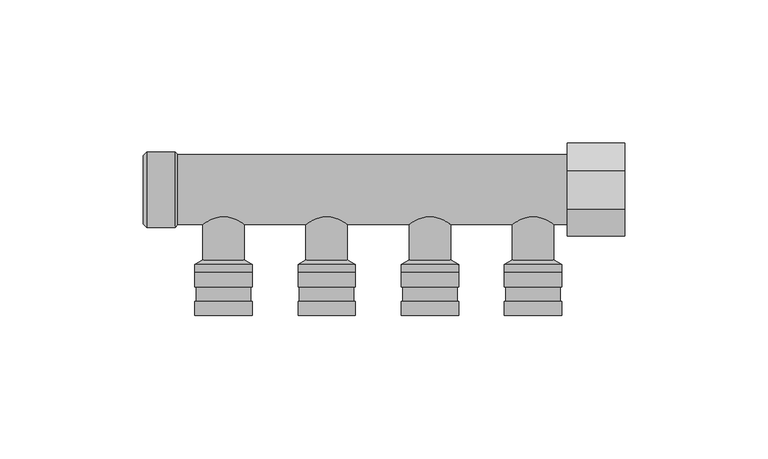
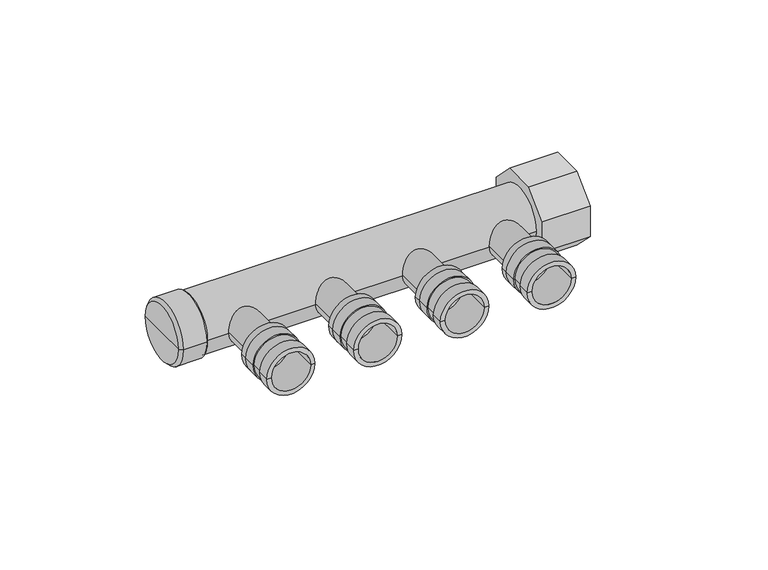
"""IFC4 building model written with IfcOpenShell, lengths in millimetres: pipe fitting geometry, Astra - Distribuidor Fechado - DST : Astra - Distribuidor Fechado - DST."""

from ifc_helpers import new_model, si_unit, frame, origin, place, context, project, spatial, polyline, circle_curve, source, transform, mapped, element, save
from ifc_brep_helpers import plane_surface, cylinder_surface, revolved_surface, advanced_brep


def pipe_fitting_f7807440(model_context):
    return source(origin(), model_context, "Body", "AdvancedBrep", [
        advanced_brep(
        [(43.85, -29.0, 0.0), (60.15, -29.0, 0.0), (62.0, -29.0, 0.0), (42.0, -29.0, 0.0), (43.85, -44.0, 0.0), (60.15, -44.0, 0.0), (42.0, -44.0, 0.0), (62.0, -44.0, 0.0), (62.0, -34.0, 0.0), (42.0, -34.0, 0.0), (42.0, -39.0, 0.0), (62.0, -39.0, 0.0), (61.5, -34.0, 0.0), (42.5, -34.0, 0.0), (61.5, -39.0, 0.0), (42.5, -39.0, 0.0)],
        [
            (0, 1, circle_curve(frame((52.0, -29.0, 0.0), z_axis=(0.0, -1.0, 0.0), x_axis=(1.0000000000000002, 0.0, 0.0)), 8.15)),
            (1, 2),
            (2, 3, circle_curve(frame((52.0, -29.0, 0.0), z_axis=(0.0, 1.0, 0.0), x_axis=(1.0000000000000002, 0.0, 0.0)), 10.0)),
            (3, 0),
            (1, 0, circle_curve(frame((52.0, -29.0, 0.0), z_axis=(0.0, -1.0, 0.0), x_axis=(1.0000000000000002, 0.0, 0.0)), 8.15)),
            (3, 2, circle_curve(frame((52.0, -29.0, 0.0), z_axis=(0.0, 1.0, 0.0), x_axis=(1.0000000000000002, 0.0, 0.0)), 10.0)),
            (0, 4),
            (4, 5, circle_curve(frame((52.0, -44.0, 0.0), z_axis=(0.0, -1.0, 0.0), x_axis=(1.0000000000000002, 0.0, 0.0)), 8.15)),
            (5, 1),
            (5, 4, circle_curve(frame((52.0, -44.0, 0.0), z_axis=(0.0, -1.0, 0.0), x_axis=(1.0000000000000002, 0.0, 0.0)), 8.15)),
            (4, 6),
            (6, 7, circle_curve(frame((52.0, -44.0, 0.0), z_axis=(0.0, -1.0, 0.0), x_axis=(1.0000000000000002, 0.0, 0.0)), 10.0)),
            (7, 5),
            (7, 6, circle_curve(frame((52.0, -44.0, 0.0), z_axis=(0.0, -1.0, 0.0), x_axis=(1.0000000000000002, 0.0, 0.0)), 10.0)),
            (2, 8),
            (8, 9, circle_curve(frame((52.0, -34.0, 0.0), z_axis=(0.0, 1.0, 0.0), x_axis=(1.0000000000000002, 0.0, 0.0)), 10.0)),
            (9, 3),
            (6, 10),
            (10, 11, circle_curve(frame((52.0, -39.0, 0.0), z_axis=(0.0, -1.0, 0.0), x_axis=(1.0000000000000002, 0.0, 0.0)), 10.0)),
            (11, 7),
            (9, 8, circle_curve(frame((52.0, -34.0, 0.0), z_axis=(0.0, 1.0, 0.0), x_axis=(1.0000000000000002, 0.0, 0.0)), 10.0)),
            (11, 10, circle_curve(frame((52.0, -39.0, 0.0), z_axis=(0.0, -1.0, 0.0), x_axis=(1.0000000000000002, 0.0, 0.0)), 10.0)),
            (12, 13, circle_curve(frame((52.0, -34.0, 0.0), z_axis=(0.0, 1.0, 0.0), x_axis=(1.0000000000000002, 0.0, 0.0)), 9.5)),
            (13, 9),
            (8, 12),
            (13, 12, circle_curve(frame((52.0, -34.0, 0.0), z_axis=(0.0, 1.0, 0.0), x_axis=(1.0000000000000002, 0.0, 0.0)), 9.5)),
            (12, 14),
            (14, 15, circle_curve(frame((52.0, -39.0, 0.0), z_axis=(0.0, 1.0, 0.0), x_axis=(1.0000000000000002, 0.0, 0.0)), 9.5)),
            (15, 13),
            (15, 14, circle_curve(frame((52.0, -39.0, 0.0), z_axis=(0.0, 1.0, 0.0), x_axis=(1.0000000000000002, 0.0, 0.0)), 9.5)),
            (14, 11),
            (10, 15),
        ],
        [
            plane_surface(frame((52.0, -29.0, 0.0), z_axis=(0.0, 1.0, 0.0), x_axis=(1.0, 0.0, 0.0))),
            revolved_surface(polyline([(60.150000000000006, -29.0, 0.0), (60.150000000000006, -44.00000000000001, 0.0)]), (52.0, -29.0, 0.0), (0.0, 1.0000000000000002, 0.0)),
            plane_surface(frame((52.0, -44.0, 0.0), z_axis=(0.0, -1.0, 0.0), x_axis=(1.0, 0.0, 0.0))),
            cylinder_surface(frame((52.0, -29.0, 0.0), z_axis=(0.0, 1.0000000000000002, 0.0), x_axis=(1.0000000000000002, 0.0, 0.0)), 10.0),
            plane_surface(frame((52.0, -34.0, 0.0), z_axis=(0.0, -1.0, 0.0), x_axis=(1.0, 0.0, 0.0))),
            cylinder_surface(frame((52.0, -29.0, 0.0), z_axis=(0.0, 1.0000000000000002, 0.0), x_axis=(1.0000000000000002, 0.0, 0.0)), 9.5),
            plane_surface(frame((52.0, -39.0, 0.0), z_axis=(0.0, 1.0, 0.0), x_axis=(1.0, 0.0, 0.0))),
        ],
        [
            (0, [[1, 2, 3, 4]]),
            (0, [[-2, 5, -4, 6]]),
            (1, [[-1, 7, 8, 9]]),
            (1, [[-5, -9, 10, -7]]),
            (2, [[-8, 11, 12, 13]]),
            (2, [[-10, -13, 14, -11]]),
            (3, [[-3, 15, 16, 17]]),
            (3, [[-12, 18, 19, 20]]),
            (3, [[-6, -17, 21, -15]]),
            (3, [[-14, -20, 22, -18]]),
            (4, [[23, 24, -16, 25]]),
            (4, [[26, -25, -21, -24]]),
            (5, [[-23, 27, 28, 29]]),
            (5, [[-26, -29, 30, -27]]),
            (6, [[-28, 31, -19, 32]]),
            (6, [[-30, -32, -22, -31]]),
        ],
    ),
        advanced_brep(
        [(7.85, -29.0, 0.0), (24.15, -29.0, 0.0), (26.0, -29.0, 0.0), (6.0, -29.0, 0.0), (7.85, -44.0, 0.0), (24.15, -44.0, 0.0), (6.0, -44.0, 0.0), (26.0, -44.0, 0.0), (26.0, -34.0, 0.0), (6.0, -34.0, 0.0), (6.0, -39.0, 0.0), (26.0, -39.0, 0.0), (25.5, -34.0, 0.0), (6.5, -34.0, 0.0), (25.5, -39.0, 0.0), (6.5, -39.0, 0.0)],
        [
            (0, 1, circle_curve(frame((16.0, -29.0, 0.0), z_axis=(0.0, -1.0, 0.0), x_axis=(1.0000000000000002, 0.0, 0.0)), 8.15)),
            (1, 2),
            (2, 3, circle_curve(frame((16.0, -29.0, 0.0), z_axis=(0.0, 1.0, 0.0), x_axis=(1.0000000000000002, 0.0, 0.0)), 10.0)),
            (3, 0),
            (1, 0, circle_curve(frame((16.0, -29.0, 0.0), z_axis=(0.0, -1.0, 0.0), x_axis=(1.0000000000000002, 0.0, 0.0)), 8.15)),
            (3, 2, circle_curve(frame((16.0, -29.0, 0.0), z_axis=(0.0, 1.0, 0.0), x_axis=(1.0000000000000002, 0.0, 0.0)), 10.0)),
            (0, 4),
            (4, 5, circle_curve(frame((16.0, -44.0, 0.0), z_axis=(0.0, -1.0, 0.0), x_axis=(1.0000000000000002, 0.0, 0.0)), 8.15)),
            (5, 1),
            (5, 4, circle_curve(frame((16.0, -44.0, 0.0), z_axis=(0.0, -1.0, 0.0), x_axis=(1.0000000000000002, 0.0, 0.0)), 8.15)),
            (4, 6),
            (6, 7, circle_curve(frame((16.0, -44.0, 0.0), z_axis=(0.0, -1.0, 0.0), x_axis=(1.0000000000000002, 0.0, 0.0)), 10.0)),
            (7, 5),
            (7, 6, circle_curve(frame((16.0, -44.0, 0.0), z_axis=(0.0, -1.0, 0.0), x_axis=(1.0000000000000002, 0.0, 0.0)), 10.0)),
            (2, 8),
            (8, 9, circle_curve(frame((16.0, -34.0, 0.0), z_axis=(0.0, 1.0, 0.0), x_axis=(1.0000000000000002, 0.0, 0.0)), 10.0)),
            (9, 3),
            (6, 10),
            (10, 11, circle_curve(frame((16.0, -39.0, 0.0), z_axis=(0.0, -1.0, 0.0), x_axis=(1.0000000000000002, 0.0, 0.0)), 10.0)),
            (11, 7),
            (9, 8, circle_curve(frame((16.0, -34.0, 0.0), z_axis=(0.0, 1.0, 0.0), x_axis=(1.0000000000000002, 0.0, 0.0)), 10.0)),
            (11, 10, circle_curve(frame((16.0, -39.0, 0.0), z_axis=(0.0, -1.0, 0.0), x_axis=(1.0000000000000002, 0.0, 0.0)), 10.0)),
            (12, 13, circle_curve(frame((16.0, -34.0, 0.0), z_axis=(0.0, 1.0, 0.0), x_axis=(1.0000000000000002, 0.0, 0.0)), 9.5)),
            (13, 9),
            (8, 12),
            (13, 12, circle_curve(frame((16.0, -34.0, 0.0), z_axis=(0.0, 1.0, 0.0), x_axis=(1.0000000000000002, 0.0, 0.0)), 9.5)),
            (12, 14),
            (14, 15, circle_curve(frame((16.0, -39.0, 0.0), z_axis=(0.0, 1.0, 0.0), x_axis=(1.0000000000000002, 0.0, 0.0)), 9.5)),
            (15, 13),
            (15, 14, circle_curve(frame((16.0, -39.0, 0.0), z_axis=(0.0, 1.0, 0.0), x_axis=(1.0000000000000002, 0.0, 0.0)), 9.5)),
            (14, 11),
            (10, 15),
        ],
        [
            plane_surface(frame((16.0, -29.0, 0.0), z_axis=(0.0, 1.0, 0.0), x_axis=(1.0, 0.0, 0.0))),
            revolved_surface(polyline([(24.150000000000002, -29.0, 0.0), (24.150000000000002, -44.00000000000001, 0.0)]), (16.0, -29.0, 0.0), (0.0, 1.0000000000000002, 0.0)),
            plane_surface(frame((16.0, -44.0, 0.0), z_axis=(0.0, -1.0, 0.0), x_axis=(1.0, 0.0, 0.0))),
            cylinder_surface(frame((16.0, -29.0, 0.0), z_axis=(0.0, 1.0000000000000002, 0.0), x_axis=(1.0000000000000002, 0.0, 0.0)), 10.0),
            plane_surface(frame((16.0, -34.0, 0.0), z_axis=(0.0, -1.0, 0.0), x_axis=(1.0, 0.0, 0.0))),
            cylinder_surface(frame((16.0, -29.0, 0.0), z_axis=(0.0, 1.0000000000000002, 0.0), x_axis=(1.0000000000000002, 0.0, 0.0)), 9.5),
            plane_surface(frame((16.0, -39.0, 0.0), z_axis=(0.0, 1.0, 0.0), x_axis=(1.0, 0.0, 0.0))),
        ],
        [
            (0, [[1, 2, 3, 4]]),
            (0, [[-2, 5, -4, 6]]),
            (1, [[-1, 7, 8, 9]]),
            (1, [[-5, -9, 10, -7]]),
            (2, [[-8, 11, 12, 13]]),
            (2, [[-10, -13, 14, -11]]),
            (3, [[-3, 15, 16, 17]]),
            (3, [[-12, 18, 19, 20]]),
            (3, [[-6, -17, 21, -15]]),
            (3, [[-14, -20, 22, -18]]),
            (4, [[23, 24, -16, 25]]),
            (4, [[26, -25, -21, -24]]),
            (5, [[-23, 27, 28, 29]]),
            (5, [[-26, -29, 30, -27]]),
            (6, [[-28, 31, -19, 32]]),
            (6, [[-30, -32, -22, -31]]),
        ],
    ),
        advanced_brep(
        [(-28.15, -29.0, 0.0), (-11.85, -29.0, 0.0), (-10.0, -29.0, 0.0), (-30.0, -29.0, 0.0), (-28.15, -44.0, 0.0), (-11.85, -44.0, 0.0), (-30.0, -44.0, 0.0), (-10.0, -44.0, 0.0), (-10.0, -34.0, 0.0), (-30.0, -34.0, 0.0), (-30.0, -39.0, 0.0), (-10.0, -39.0, 0.0), (-10.5, -34.0, 0.0), (-29.5, -34.0, 0.0), (-10.5, -39.0, 0.0), (-29.5, -39.0, 0.0)],
        [
            (0, 1, circle_curve(frame((-20.0, -29.0, 0.0), z_axis=(0.0, -1.0, 0.0), x_axis=(1.0000000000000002, 0.0, 0.0)), 8.15)),
            (1, 2),
            (2, 3, circle_curve(frame((-20.0, -29.0, 0.0), z_axis=(0.0, 1.0, 0.0), x_axis=(1.0000000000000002, 0.0, 0.0)), 10.0)),
            (3, 0),
            (1, 0, circle_curve(frame((-20.0, -29.0, 0.0), z_axis=(0.0, -1.0, 0.0), x_axis=(1.0000000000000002, 0.0, 0.0)), 8.15)),
            (3, 2, circle_curve(frame((-20.0, -29.0, 0.0), z_axis=(0.0, 1.0, 0.0), x_axis=(1.0000000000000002, 0.0, 0.0)), 10.0)),
            (0, 4),
            (4, 5, circle_curve(frame((-20.0, -44.0, 0.0), z_axis=(0.0, -1.0, 0.0), x_axis=(1.0000000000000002, 0.0, 0.0)), 8.15)),
            (5, 1),
            (5, 4, circle_curve(frame((-20.0, -44.0, 0.0), z_axis=(0.0, -1.0, 0.0), x_axis=(1.0000000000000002, 0.0, 0.0)), 8.15)),
            (4, 6),
            (6, 7, circle_curve(frame((-20.0, -44.0, 0.0), z_axis=(0.0, -1.0, 0.0), x_axis=(1.0000000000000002, 0.0, 0.0)), 10.0)),
            (7, 5),
            (7, 6, circle_curve(frame((-20.0, -44.0, 0.0), z_axis=(0.0, -1.0, 0.0), x_axis=(1.0000000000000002, 0.0, 0.0)), 10.0)),
            (2, 8),
            (8, 9, circle_curve(frame((-20.0, -34.0, 0.0), z_axis=(0.0, 1.0, 0.0), x_axis=(1.0000000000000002, 0.0, 0.0)), 10.0)),
            (9, 3),
            (6, 10),
            (10, 11, circle_curve(frame((-20.0, -39.0, 0.0), z_axis=(0.0, -1.0, 0.0), x_axis=(1.0000000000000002, 0.0, 0.0)), 10.0)),
            (11, 7),
            (9, 8, circle_curve(frame((-20.0, -34.0, 0.0), z_axis=(0.0, 1.0, 0.0), x_axis=(1.0000000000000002, 0.0, 0.0)), 10.0)),
            (11, 10, circle_curve(frame((-20.0, -39.0, 0.0), z_axis=(0.0, -1.0, 0.0), x_axis=(1.0000000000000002, 0.0, 0.0)), 10.0)),
            (12, 13, circle_curve(frame((-20.0, -34.0, 0.0), z_axis=(0.0, 1.0, 0.0), x_axis=(1.0000000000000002, 0.0, 0.0)), 9.5)),
            (13, 9),
            (8, 12),
            (13, 12, circle_curve(frame((-20.0, -34.0, 0.0), z_axis=(0.0, 1.0, 0.0), x_axis=(1.0000000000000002, 0.0, 0.0)), 9.5)),
            (12, 14),
            (14, 15, circle_curve(frame((-20.0, -39.0, 0.0), z_axis=(0.0, 1.0, 0.0), x_axis=(1.0000000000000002, 0.0, 0.0)), 9.5)),
            (15, 13),
            (15, 14, circle_curve(frame((-20.0, -39.0, 0.0), z_axis=(0.0, 1.0, 0.0), x_axis=(1.0000000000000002, 0.0, 0.0)), 9.5)),
            (14, 11),
            (10, 15),
        ],
        [
            plane_surface(frame((-20.0, -29.0, 0.0), z_axis=(0.0, 1.0, 0.0), x_axis=(1.0, 0.0, 0.0))),
            revolved_surface(polyline([(-11.849999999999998, -29.0, 0.0), (-11.849999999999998, -44.00000000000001, 0.0)]), (-20.0, -29.0, 0.0), (0.0, 1.0000000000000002, 0.0)),
            plane_surface(frame((-20.0, -44.0, 0.0), z_axis=(0.0, -1.0, 0.0), x_axis=(1.0, 0.0, 0.0))),
            cylinder_surface(frame((-20.0, -29.0, 0.0), z_axis=(0.0, 1.0000000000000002, 0.0), x_axis=(1.0000000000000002, 0.0, 0.0)), 10.0),
            plane_surface(frame((-20.0, -34.0, 0.0), z_axis=(0.0, -1.0, 0.0), x_axis=(1.0, 0.0, 0.0))),
            cylinder_surface(frame((-20.0, -29.0, 0.0), z_axis=(0.0, 1.0000000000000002, 0.0), x_axis=(1.0000000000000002, 0.0, 0.0)), 9.5),
            plane_surface(frame((-20.0, -39.0, 0.0), z_axis=(0.0, 1.0, 0.0), x_axis=(1.0, 0.0, 0.0))),
        ],
        [
            (0, [[1, 2, 3, 4]]),
            (0, [[-2, 5, -4, 6]]),
            (1, [[-1, 7, 8, 9]]),
            (1, [[-5, -9, 10, -7]]),
            (2, [[-8, 11, 12, 13]]),
            (2, [[-10, -13, 14, -11]]),
            (3, [[-3, 15, 16, 17]]),
            (3, [[-12, 18, 19, 20]]),
            (3, [[-6, -17, 21, -15]]),
            (3, [[-14, -20, 22, -18]]),
            (4, [[23, 24, -16, 25]]),
            (4, [[26, -25, -21, -24]]),
            (5, [[-23, 27, 28, 29]]),
            (5, [[-26, -29, 30, -27]]),
            (6, [[-28, 31, -19, 32]]),
            (6, [[-30, -32, -22, -31]]),
        ],
    ),
        advanced_brep(
        [(-64.15, -29.0, 0.0), (-47.85, -29.0, 0.0), (-46.0, -29.0, 0.0), (-66.0, -29.0, 0.0), (-64.15, -44.0, 0.0), (-47.85, -44.0, 0.0), (-66.0, -44.0, 0.0), (-46.0, -44.0, 0.0), (-46.0, -34.0, 0.0), (-66.0, -34.0, 0.0), (-66.0, -39.0, 0.0), (-46.0, -39.0, 0.0), (-46.5, -34.0, 0.0), (-65.5, -34.0, 0.0), (-46.5, -39.0, 0.0), (-65.5, -39.0, 0.0)],
        [
            (0, 1, circle_curve(frame((-56.0, -29.0, 0.0), z_axis=(0.0, -1.0, 0.0), x_axis=(1.0000000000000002, 0.0, 0.0)), 8.15)),
            (1, 2),
            (2, 3, circle_curve(frame((-56.0, -29.0, 0.0), z_axis=(0.0, 1.0, 0.0), x_axis=(1.0000000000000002, 0.0, 0.0)), 10.0)),
            (3, 0),
            (1, 0, circle_curve(frame((-56.0, -29.0, 0.0), z_axis=(0.0, -1.0, 0.0), x_axis=(1.0000000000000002, 0.0, 0.0)), 8.15)),
            (3, 2, circle_curve(frame((-56.0, -29.0, 0.0), z_axis=(0.0, 1.0, 0.0), x_axis=(1.0000000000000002, 0.0, 0.0)), 10.0)),
            (0, 4),
            (4, 5, circle_curve(frame((-56.0, -44.0, 0.0), z_axis=(0.0, -1.0, 0.0), x_axis=(1.0000000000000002, 0.0, 0.0)), 8.15)),
            (5, 1),
            (5, 4, circle_curve(frame((-56.0, -44.0, 0.0), z_axis=(0.0, -1.0, 0.0), x_axis=(1.0000000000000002, 0.0, 0.0)), 8.15)),
            (4, 6),
            (6, 7, circle_curve(frame((-56.0, -44.0, 0.0), z_axis=(0.0, -1.0, 0.0), x_axis=(1.0000000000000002, 0.0, 0.0)), 10.0)),
            (7, 5),
            (7, 6, circle_curve(frame((-56.0, -44.0, 0.0), z_axis=(0.0, -1.0, 0.0), x_axis=(1.0000000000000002, 0.0, 0.0)), 10.0)),
            (2, 8),
            (8, 9, circle_curve(frame((-56.0, -34.0, 0.0), z_axis=(0.0, 1.0, 0.0), x_axis=(1.0000000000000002, 0.0, 0.0)), 10.0)),
            (9, 3),
            (6, 10),
            (10, 11, circle_curve(frame((-56.0, -39.0, 0.0), z_axis=(0.0, -1.0, 0.0), x_axis=(1.0000000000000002, 0.0, 0.0)), 10.0)),
            (11, 7),
            (9, 8, circle_curve(frame((-56.0, -34.0, 0.0), z_axis=(0.0, 1.0, 0.0), x_axis=(1.0000000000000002, 0.0, 0.0)), 10.0)),
            (11, 10, circle_curve(frame((-56.0, -39.0, 0.0), z_axis=(0.0, -1.0, 0.0), x_axis=(1.0000000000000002, 0.0, 0.0)), 10.0)),
            (12, 13, circle_curve(frame((-56.0, -34.0, 0.0), z_axis=(0.0, 1.0, 0.0), x_axis=(1.0000000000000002, 0.0, 0.0)), 9.5)),
            (13, 9),
            (8, 12),
            (13, 12, circle_curve(frame((-56.0, -34.0, 0.0), z_axis=(0.0, 1.0, 0.0), x_axis=(1.0000000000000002, 0.0, 0.0)), 9.5)),
            (12, 14),
            (14, 15, circle_curve(frame((-56.0, -39.0, 0.0), z_axis=(0.0, 1.0, 0.0), x_axis=(1.0000000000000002, 0.0, 0.0)), 9.5)),
            (15, 13),
            (15, 14, circle_curve(frame((-56.0, -39.0, 0.0), z_axis=(0.0, 1.0, 0.0), x_axis=(1.0000000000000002, 0.0, 0.0)), 9.5)),
            (14, 11),
            (10, 15),
        ],
        [
            plane_surface(frame((-56.0, -29.0, 0.0), z_axis=(0.0, 1.0, 0.0), x_axis=(1.0, 0.0, 0.0))),
            revolved_surface(polyline([(-47.849999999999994, -29.0, 0.0), (-47.849999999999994, -44.00000000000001, 0.0)]), (-56.0, -29.0, 0.0), (0.0, 1.0000000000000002, 0.0)),
            plane_surface(frame((-56.0, -44.0, 0.0), z_axis=(0.0, -1.0, 0.0), x_axis=(1.0, 0.0, 0.0))),
            cylinder_surface(frame((-56.0, -29.0, 0.0), z_axis=(0.0, 1.0000000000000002, 0.0), x_axis=(1.0000000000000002, 0.0, 0.0)), 10.0),
            plane_surface(frame((-56.0, -34.0, 0.0), z_axis=(0.0, -1.0, 0.0), x_axis=(1.0, 0.0, 0.0))),
            cylinder_surface(frame((-56.0, -29.0, 0.0), z_axis=(0.0, 1.0000000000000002, 0.0), x_axis=(1.0000000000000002, 0.0, 0.0)), 9.5),
            plane_surface(frame((-56.0, -39.0, 0.0), z_axis=(0.0, 1.0, 0.0), x_axis=(1.0, 0.0, 0.0))),
        ],
        [
            (0, [[1, 2, 3, 4]]),
            (0, [[-2, 5, -4, 6]]),
            (1, [[-1, 7, 8, 9]]),
            (1, [[-5, -9, 10, -7]]),
            (2, [[-8, 11, 12, 13]]),
            (2, [[-10, -13, 14, -11]]),
            (3, [[-3, 15, 16, 17]]),
            (3, [[-12, 18, 19, 20]]),
            (3, [[-6, -17, 21, -15]]),
            (3, [[-14, -20, 22, -18]]),
            (4, [[23, 24, -16, 25]]),
            (4, [[26, -25, -21, -24]]),
            (5, [[-23, 27, 28, 29]]),
            (5, [[-26, -29, 30, -27]]),
            (6, [[-28, 31, -19, 32]]),
            (6, [[-30, -32, -22, -31]]),
        ],
    ),
        advanced_brep(
        [(44.75, 0.0, 0.0), (59.25, 0.0, 0.0), (59.25, -24.5, 0.0), (44.75, -24.5, 0.0), (52.0, 0.0, 0.0), (42.0, -29.0, 0.0), (62.0, -29.0, 0.0), (52.0, -29.0, 0.0), (42.0, -26.0877132, 0.0), (62.0, -26.0877132, 0.0)],
        [
            (0, 1, circle_curve(frame((52.0, 0.0, 0.0), z_axis=(0.0, -1.0, 0.0), x_axis=(1.0, 0.0, 0.0)), 7.25)),
            (1, 2),
            (2, 3, circle_curve(frame((52.0, -24.5, 0.0), z_axis=(0.0, 1.0, 0.0), x_axis=(1.0, 0.0, 0.0)), 7.25)),
            (3, 0),
            (1, 0, circle_curve(frame((52.0, 0.0, 0.0), z_axis=(0.0, -1.0, 0.0), x_axis=(1.0, 0.0, 0.0)), 7.25)),
            (3, 2, circle_curve(frame((52.0, -24.5, 0.0), z_axis=(0.0, 1.0, 0.0), x_axis=(1.0, 0.0, 0.0)), 7.25)),
            (4, 1),
            (0, 4),
            (5, 6, circle_curve(frame((52.0, -29.0, 0.0), z_axis=(0.0, -1.0, 0.0), x_axis=(1.0, 0.0, 0.0)), 10.0)),
            (6, 7),
            (7, 5),
            (6, 5, circle_curve(frame((52.0, -29.0, 0.0), z_axis=(0.0, -1.0, 0.0), x_axis=(1.0, 0.0, 0.0)), 10.0)),
            (8, 9, circle_curve(frame((52.0, -26.0877132, 0.0), z_axis=(0.0, -1.0, 0.0), x_axis=(1.0, 0.0, 0.0)), 10.0)),
            (9, 6),
            (5, 8),
            (9, 8, circle_curve(frame((52.0, -26.0877132, 0.0), z_axis=(0.0, -1.0, 0.0), x_axis=(1.0, 0.0, 0.0)), 10.0)),
            (2, 9),
            (8, 3),
        ],
        [
            cylinder_surface(frame((52.0, 0.0, 0.0), z_axis=(0.0, 1.0, 0.0), x_axis=(1.0, 0.0, 0.0)), 7.25),
            plane_surface(frame((52.0, 0.0, 0.0), z_axis=(0.0, 1.0, 0.0), x_axis=(1.0, 0.0, 0.0))),
            plane_surface(frame((52.0, -29.0, 0.0), z_axis=(0.0, -1.0, 0.0), x_axis=(1.0, 0.0, 0.0))),
            cylinder_surface(frame((52.0, 0.0, 0.0), z_axis=(0.0, 1.0, 0.0), x_axis=(1.0, 0.0, 0.0)), 10.0),
            revolved_surface(polyline([(62.0, -26.0877132, 0.0), (59.25, -24.5, 0.0)]), (52.0, 0.0, 0.0), (0.0, 1.0, 0.0)),
        ],
        [
            (0, [[1, 2, 3, 4]]),
            (0, [[5, -4, 6, -2]]),
            (1, [[7, -1, 8]]),
            (1, [[-8, -5, -7]]),
            (2, [[9, 10, 11]]),
            (2, [[12, -11, -10]]),
            (3, [[13, 14, -9, 15]]),
            (3, [[16, -15, -12, -14]]),
            (4, [[-3, 17, -13, 18]]),
            (4, [[-6, -18, -16, -17]]),
        ],
    ),
        advanced_brep(
        [(8.75, 0.0, 0.0), (23.25, 0.0, 0.0), (23.25, -24.5, 0.0), (8.75, -24.5, 0.0), (16.0, 0.0, 0.0), (6.0, -29.0, 0.0), (26.0, -29.0, 0.0), (16.0, -29.0, 0.0), (6.0, -26.0877132, 0.0), (26.0, -26.0877132, 0.0)],
        [
            (0, 1, circle_curve(frame((16.0, 0.0, 0.0), z_axis=(0.0, -1.0, 0.0), x_axis=(1.0, 0.0, 0.0)), 7.25)),
            (1, 2),
            (2, 3, circle_curve(frame((16.0, -24.5, 0.0), z_axis=(0.0, 1.0, 0.0), x_axis=(1.0, 0.0, 0.0)), 7.25)),
            (3, 0),
            (1, 0, circle_curve(frame((16.0, 0.0, 0.0), z_axis=(0.0, -1.0, 0.0), x_axis=(1.0, 0.0, 0.0)), 7.25)),
            (3, 2, circle_curve(frame((16.0, -24.5, 0.0), z_axis=(0.0, 1.0, 0.0), x_axis=(1.0, 0.0, 0.0)), 7.25)),
            (4, 1),
            (0, 4),
            (5, 6, circle_curve(frame((16.0, -29.0, 0.0), z_axis=(0.0, -1.0, 0.0), x_axis=(1.0, 0.0, 0.0)), 10.0)),
            (6, 7),
            (7, 5),
            (6, 5, circle_curve(frame((16.0, -29.0, 0.0), z_axis=(0.0, -1.0, 0.0), x_axis=(1.0, 0.0, 0.0)), 10.0)),
            (8, 9, circle_curve(frame((16.0, -26.0877132, 0.0), z_axis=(0.0, -1.0, 0.0), x_axis=(1.0, 0.0, 0.0)), 10.0)),
            (9, 6),
            (5, 8),
            (9, 8, circle_curve(frame((16.0, -26.0877132, 0.0), z_axis=(0.0, -1.0, 0.0), x_axis=(1.0, 0.0, 0.0)), 10.0)),
            (2, 9),
            (8, 3),
        ],
        [
            cylinder_surface(frame((16.0, 0.0, 0.0), z_axis=(0.0, 1.0, 0.0), x_axis=(1.0, 0.0, 0.0)), 7.25),
            plane_surface(frame((16.0, 0.0, 0.0), z_axis=(0.0, 1.0, 0.0), x_axis=(1.0, 0.0, 0.0))),
            plane_surface(frame((16.0, -29.0, 0.0), z_axis=(0.0, -1.0, 0.0), x_axis=(1.0, 0.0, 0.0))),
            cylinder_surface(frame((16.0, 0.0, 0.0), z_axis=(0.0, 1.0, 0.0), x_axis=(1.0, 0.0, 0.0)), 10.0),
            revolved_surface(polyline([(26.0, -26.0877132, 0.0), (23.25, -24.5, 0.0)]), (16.0, 0.0, 0.0), (0.0, 1.0, 0.0)),
        ],
        [
            (0, [[1, 2, 3, 4]]),
            (0, [[5, -4, 6, -2]]),
            (1, [[7, -1, 8]]),
            (1, [[-8, -5, -7]]),
            (2, [[9, 10, 11]]),
            (2, [[12, -11, -10]]),
            (3, [[13, 14, -9, 15]]),
            (3, [[16, -15, -12, -14]]),
            (4, [[-3, 17, -13, 18]]),
            (4, [[-6, -18, -16, -17]]),
        ],
    ),
        advanced_brep(
        [(-27.25, 0.0, 0.0), (-12.75, 0.0, 0.0), (-12.75, -24.5, 0.0), (-27.25, -24.5, 0.0), (-20.0, 0.0, 0.0), (-30.0, -29.0, 0.0), (-10.0, -29.0, 0.0), (-20.0, -29.0, 0.0), (-30.0, -26.0877132, 0.0), (-10.0, -26.0877132, 0.0)],
        [
            (0, 1, circle_curve(frame((-20.0, 0.0, 0.0), z_axis=(0.0, -1.0, 0.0), x_axis=(1.0, 0.0, 0.0)), 7.25)),
            (1, 2),
            (2, 3, circle_curve(frame((-20.0, -24.5, 0.0), z_axis=(0.0, 1.0, 0.0), x_axis=(1.0, 0.0, 0.0)), 7.25)),
            (3, 0),
            (1, 0, circle_curve(frame((-20.0, 0.0, 0.0), z_axis=(0.0, -1.0, 0.0), x_axis=(1.0, 0.0, 0.0)), 7.25)),
            (3, 2, circle_curve(frame((-20.0, -24.5, 0.0), z_axis=(0.0, 1.0, 0.0), x_axis=(1.0, 0.0, 0.0)), 7.25)),
            (4, 1),
            (0, 4),
            (5, 6, circle_curve(frame((-20.0, -29.0, 0.0), z_axis=(0.0, -1.0, 0.0), x_axis=(1.0, 0.0, 0.0)), 10.0)),
            (6, 7),
            (7, 5),
            (6, 5, circle_curve(frame((-20.0, -29.0, 0.0), z_axis=(0.0, -1.0, 0.0), x_axis=(1.0, 0.0, 0.0)), 10.0)),
            (8, 9, circle_curve(frame((-20.0, -26.0877132, 0.0), z_axis=(0.0, -1.0, 0.0), x_axis=(1.0, 0.0, 0.0)), 10.0)),
            (9, 6),
            (5, 8),
            (9, 8, circle_curve(frame((-20.0, -26.0877132, 0.0), z_axis=(0.0, -1.0, 0.0), x_axis=(1.0, 0.0, 0.0)), 10.0)),
            (2, 9),
            (8, 3),
        ],
        [
            cylinder_surface(frame((-20.0, 0.0, 0.0), z_axis=(0.0, 1.0, 0.0), x_axis=(1.0, 0.0, 0.0)), 7.25),
            plane_surface(frame((-20.0, 0.0, 0.0), z_axis=(0.0, 1.0, 0.0), x_axis=(1.0, 0.0, 0.0))),
            plane_surface(frame((-20.0, -29.0, 0.0), z_axis=(0.0, -1.0, 0.0), x_axis=(1.0, 0.0, 0.0))),
            cylinder_surface(frame((-20.0, 0.0, 0.0), z_axis=(0.0, 1.0, 0.0), x_axis=(1.0, 0.0, 0.0)), 10.0),
            revolved_surface(polyline([(-10.0, -26.0877132, 0.0), (-12.75, -24.5, 0.0)]), (-20.0, 0.0, 0.0), (0.0, 1.0, 0.0)),
        ],
        [
            (0, [[1, 2, 3, 4]]),
            (0, [[5, -4, 6, -2]]),
            (1, [[7, -1, 8]]),
            (1, [[-8, -5, -7]]),
            (2, [[9, 10, 11]]),
            (2, [[12, -11, -10]]),
            (3, [[13, 14, -9, 15]]),
            (3, [[16, -15, -12, -14]]),
            (4, [[-3, 17, -13, 18]]),
            (4, [[-6, -18, -16, -17]]),
        ],
    ),
        advanced_brep(
        [(-63.25, 0.0, 0.0), (-48.75, 0.0, 0.0), (-48.75, -24.5, 0.0), (-63.25, -24.5, 0.0), (-56.0, 0.0, 0.0), (-66.0, -29.0, 0.0), (-46.0, -29.0, 0.0), (-56.0, -29.0, 0.0), (-66.0, -26.0877132, 0.0), (-46.0, -26.0877132, 0.0)],
        [
            (0, 1, circle_curve(frame((-56.0, 0.0, 0.0), z_axis=(0.0, -1.0, 0.0), x_axis=(1.0, 0.0, 0.0)), 7.25)),
            (1, 2),
            (2, 3, circle_curve(frame((-56.0, -24.5, 0.0), z_axis=(0.0, 1.0, 0.0), x_axis=(1.0, 0.0, 0.0)), 7.25)),
            (3, 0),
            (1, 0, circle_curve(frame((-56.0, 0.0, 0.0), z_axis=(0.0, -1.0, 0.0), x_axis=(1.0, 0.0, 0.0)), 7.25)),
            (3, 2, circle_curve(frame((-56.0, -24.5, 0.0), z_axis=(0.0, 1.0, 0.0), x_axis=(1.0, 0.0, 0.0)), 7.25)),
            (4, 1),
            (0, 4),
            (5, 6, circle_curve(frame((-56.0, -29.0, 0.0), z_axis=(0.0, -1.0, 0.0), x_axis=(1.0, 0.0, 0.0)), 10.0)),
            (6, 7),
            (7, 5),
            (6, 5, circle_curve(frame((-56.0, -29.0, 0.0), z_axis=(0.0, -1.0, 0.0), x_axis=(1.0, 0.0, 0.0)), 10.0)),
            (8, 9, circle_curve(frame((-56.0, -26.0877132, 0.0), z_axis=(0.0, -1.0, 0.0), x_axis=(1.0, 0.0, 0.0)), 10.0)),
            (9, 6),
            (5, 8),
            (9, 8, circle_curve(frame((-56.0, -26.0877132, 0.0), z_axis=(0.0, -1.0, 0.0), x_axis=(1.0, 0.0, 0.0)), 10.0)),
            (2, 9),
            (8, 3),
        ],
        [
            cylinder_surface(frame((-56.0, 0.0, 0.0), z_axis=(0.0, 1.0, 0.0), x_axis=(1.0, 0.0, 0.0)), 7.25),
            plane_surface(frame((-56.0, 0.0, 0.0), z_axis=(0.0, 1.0, 0.0), x_axis=(1.0, 0.0, 0.0))),
            plane_surface(frame((-56.0, -29.0, 0.0), z_axis=(0.0, -1.0, 0.0), x_axis=(1.0, 0.0, 0.0))),
            cylinder_surface(frame((-56.0, 0.0, 0.0), z_axis=(0.0, 1.0, 0.0), x_axis=(1.0, 0.0, 0.0)), 10.0),
            revolved_surface(polyline([(-46.0, -26.0877132, 0.0), (-48.75, -24.5, 0.0)]), (-56.0, 0.0, 0.0), (0.0, 1.0, 0.0)),
        ],
        [
            (0, [[1, 2, 3, 4]]),
            (0, [[5, -4, 6, -2]]),
            (1, [[7, -1, 8]]),
            (1, [[-8, -5, -7]]),
            (2, [[9, 10, 11]]),
            (2, [[12, -11, -10]]),
            (3, [[13, 14, -9, 15]]),
            (3, [[16, -15, -12, -14]]),
            (4, [[-3, 17, -13, 18]]),
            (4, [[-6, -18, -16, -17]]),
        ],
    ),
        advanced_brep(
        [(-72.0, 12.25, 0.0), (64.0, 12.25, 0.0), (64.0, -12.25, 0.0), (-72.0, -12.25, 0.0), (-72.0, -8.6620581, -8.6620581), (-72.0, 0.0, -12.25), (-72.0, 8.6620581, -8.6620581), (-72.0, 8.6620581, 8.6620581), (-72.0, 0.0, 12.25), (-72.0, -8.6620581, 8.6620581), (-84.0, -11.95, 0.0), (-84.0, 11.95, 0.0), (-82.8, 13.15, 0.0), (-82.8, -13.15, 0.0), (-84.0, 0.0, 0.0), (-72.9, -13.15, 0.0), (-72.9, 13.15, 0.0), (84.0, -16.25, 6.7309704), (84.0, -16.25, -6.7309704), (84.0, -6.7309704, -16.25), (84.0, 6.7309704, -16.25), (84.0, 16.25, -6.7309704), (84.0, 16.25, 6.7309704), (84.0, 6.7309704, 16.25), (84.0, -6.7309704, 16.25), (64.0, -16.25, 6.7309704), (64.0, -6.7309704, 16.25), (64.0, 6.7309704, 16.25), (64.0, 16.25, 6.7309704), (64.0, 16.25, -6.7309704), (64.0, 6.7309704, -16.25), (64.0, -6.7309704, -16.25), (64.0, -16.25, -6.7309704)],
        [
            (0, 1),
            (1, 2, circle_curve(frame((64.0, 0.0, 0.0), z_axis=(-1.0, 0.0, 0.0), x_axis=(0.0, 1.0, 0.0)), 12.25)),
            (2, 3),
            (3, 4, circle_curve(frame((-72.0, 0.0, 0.0), z_axis=(1.0, 0.0, 0.0), x_axis=(0.0, 1.0, 0.0)), 12.25)),
            (4, 5, circle_curve(frame((-72.0, 0.0, 0.0), z_axis=(1.0, 0.0, 0.0), x_axis=(0.0, 1.0, 0.0)), 12.25)),
            (5, 6, circle_curve(frame((-72.0, 0.0, 0.0), z_axis=(1.0, 0.0, 0.0), x_axis=(0.0, 1.0, 0.0)), 12.25)),
            (6, 0, circle_curve(frame((-72.0, 0.0, 0.0), z_axis=(1.0, 0.0, 0.0), x_axis=(0.0, 1.0, 0.0)), 12.25)),
            (0, 7, circle_curve(frame((-72.0, 0.0, 0.0), z_axis=(1.0, 0.0, 0.0), x_axis=(0.0, 1.0, 0.0)), 12.25)),
            (7, 8, circle_curve(frame((-72.0, 0.0, 0.0), z_axis=(1.0, 0.0, 0.0), x_axis=(0.0, 1.0, 0.0)), 12.25)),
            (8, 9, circle_curve(frame((-72.0, 0.0, 0.0), z_axis=(1.0, 0.0, 0.0), x_axis=(0.0, 1.0, 0.0)), 12.25)),
            (9, 3, circle_curve(frame((-72.0, 0.0, 0.0), z_axis=(1.0, 0.0, 0.0), x_axis=(0.0, 1.0, 0.0)), 12.25)),
            (2, 1, circle_curve(frame((64.0, 0.0, 0.0), z_axis=(-1.0, 0.0, 0.0), x_axis=(0.0, 1.0, 0.0)), 12.25)),
            (10, 11, circle_curve(frame((-84.0, 0.0, 0.0), z_axis=(1.0, 0.0, 0.0), x_axis=(0.0, 1.0, 0.0)), 11.95)),
            (11, 12),
            (12, 13, circle_curve(frame((-82.8, 0.0, 0.0), z_axis=(-1.0, 0.0, 0.0), x_axis=(0.0, 1.0, 0.0)), 13.15)),
            (13, 10),
            (11, 10, circle_curve(frame((-84.0, 0.0, 0.0), z_axis=(1.0, 0.0, 0.0), x_axis=(0.0, 1.0, 0.0)), 11.95)),
            (13, 12, circle_curve(frame((-82.8, 0.0, 0.0), z_axis=(-1.0, 0.0, 0.0), x_axis=(0.0, 1.0, 0.0)), 13.15)),
            (10, 14),
            (14, 11),
            (15, 16, circle_curve(frame((-72.9, 0.0, 0.0), z_axis=(1.0, 0.0, 0.0), x_axis=(0.0, 1.0, 0.0)), 13.15)),
            (16, 0),
            (3, 15),
            (16, 15, circle_curve(frame((-72.9, 0.0, 0.0), z_axis=(1.0, 0.0, 0.0), x_axis=(0.0, 1.0, 0.0)), 13.15)),
            (12, 16),
            (15, 13),
            (17, 18),
            (18, 19),
            (19, 20),
            (20, 21),
            (21, 22),
            (22, 23),
            (23, 24),
            (24, 17),
            (25, 26),
            (26, 27),
            (27, 28),
            (28, 29),
            (29, 30),
            (30, 31),
            (31, 32),
            (32, 25),
            (17, 25),
            (32, 18),
            (31, 19),
            (30, 20),
            (29, 21),
            (28, 22),
            (27, 23),
            (26, 24),
        ],
        [
            cylinder_surface(frame((-72.0, 0.0, 0.0), z_axis=(-1.0, 0.0, 0.0), x_axis=(0.0, 1.0, 0.0)), 12.25),
            revolved_surface(polyline([(-82.8, 13.15, 0.0), (-84.0, 11.95, 0.0)]), (-84.0, 0.0, 0.0), (-1.0, 0.0, 0.0)),
            plane_surface(frame((-84.0, 0.0, 0.0), z_axis=(-1.0, 0.0, 0.0), x_axis=(0.0, 1.0, 0.0))),
            revolved_surface(polyline([(-72.0, 12.25, 0.0), (-72.9, 13.15, 0.0)]), (-84.0, 0.0, 0.0), (-1.0, 0.0, 0.0)),
            cylinder_surface(frame((-84.0, 0.0, 0.0), z_axis=(-1.0, 0.0, 0.0), x_axis=(0.0, 1.0, 0.0)), 13.15),
            plane_surface(frame((84.0, -16.25, 6.7309704), z_axis=(1.0, 0.0, 0.0), x_axis=(0.0, 0.0, -1.0))),
            plane_surface(frame((64.0, -16.25, 6.7309704), z_axis=(-1.0, 0.0, 0.0), x_axis=(0.0, 0.0, 1.0))),
            plane_surface(frame((84.0, -16.25, 6.7309704), z_axis=(0.0, -1.0, 0.0), x_axis=(-1.0, 0.0, 0.0))),
            plane_surface(frame((84.0, -16.25, -6.7309704), z_axis=(0.0, -0.7071067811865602, -0.7071067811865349), x_axis=(-1.0, 0.0, 0.0))),
            plane_surface(frame((84.0, -6.7309704, -16.25), z_axis=(0.0, 0.0, -1.0), x_axis=(-1.0, 0.0, 0.0))),
            plane_surface(frame((84.0, 6.7309704, -16.25), z_axis=(0.0, 0.7071067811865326, -0.7071067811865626), x_axis=(-1.0, 0.0, 0.0))),
            plane_surface(frame((84.0, 16.25, -6.7309704), z_axis=(0.0, 1.0, 0.0), x_axis=(-1.0, 0.0, 0.0))),
            plane_surface(frame((84.0, 16.25, 6.7309704), z_axis=(0.0, 0.7071067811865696, 0.7071067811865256), x_axis=(-1.0, 0.0, 0.0))),
            plane_surface(frame((84.0, 6.7309704, 16.25), z_axis=(0.0, 0.0, 1.0), x_axis=(-1.0, 0.0, 0.0))),
            plane_surface(frame((84.0, -6.7309704, 16.25), z_axis=(0.0, -0.7071067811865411, 0.707106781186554), x_axis=(-1.0, 0.0, 0.0))),
        ],
        [
            (0, [[1, 2, 3, 4, 5, 6, 7]]),
            (0, [[-1, 8, 9, 10, 11, -3, 12]]),
            (1, [[13, 14, 15, 16]]),
            (1, [[-14, 17, -16, 18]]),
            (2, [[-13, 19, 20]]),
            (2, [[-17, -20, -19]]),
            (3, [[21, 22, -7, -6, -5, -4, 23]]),
            (3, [[-22, 24, -23, -11, -10, -9, -8]]),
            (4, [[-15, 25, -21, 26]]),
            (4, [[-18, -26, -24, -25]]),
            (5, [[27, 28, 29, 30, 31, 32, 33, 34]]),
            (6, [[35, 36, 37, 38, 39, 40, 41, 42], [-2, -12]]),
            (7, [[-27, 43, -42, 44]]),
            (8, [[-28, -44, -41, 45]]),
            (9, [[-29, -45, -40, 46]]),
            (10, [[-30, -46, -39, 47]]),
            (11, [[-31, -47, -38, 48]]),
            (12, [[-32, -48, -37, 49]]),
            (13, [[-33, -49, -36, 50]]),
            (14, [[-34, -50, -35, -43]]),
        ],
    ),
    ])


if __name__ == "__main__":
    model = new_model("IFC4")
    model_context = context("Model", 3, world=origin())
    ifc_project = project(units=[si_unit("LENGTHUNIT", "METRE", prefix="MILLI")], contexts=[model_context])
    site = spatial("IfcSite", under=ifc_project)
    building = spatial("IfcBuilding", under=site)
    placement = place(None, origin())
    pipe_fitting_shape = pipe_fitting_f7807440(model_context)
    element("IfcPipeFitting", 1, ObjectType="Astra - Distribuidor Fechado - DST : Astra - Distribuidor Fechado - DST", at=placement, inside=building, context=model_context, shape_type="MappedRepresentation", body=[
        mapped(pipe_fitting_shape, transform((0.0, 0.0, 0.0), x_axis=(1.0, 0.0, 0.0), y_axis=(0.0, 1.0, 0.0), z_axis=(0.0, 0.0, 1.0))),
    ])
    save(model, "model.ifc")
